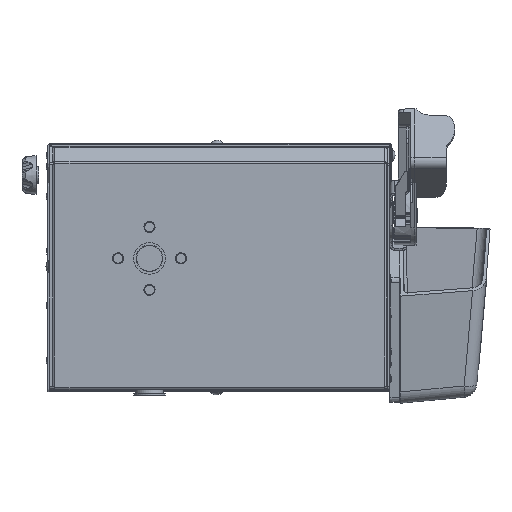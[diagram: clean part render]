
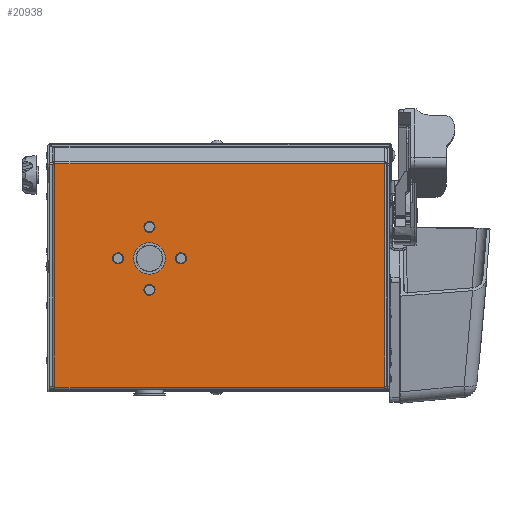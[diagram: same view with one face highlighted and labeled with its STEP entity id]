
A CAD part, front view. The second image highlights one B-rep face of the part: STEP entity #20938.
In plain terms, the highlighted planar face has unit normal (0, -1, 0).
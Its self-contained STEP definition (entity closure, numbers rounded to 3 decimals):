
#100=FACE_BOUND('',#6936,.T.);
#101=FACE_BOUND('',#6937,.T.);
#102=FACE_BOUND('',#6938,.T.);
#103=FACE_BOUND('',#6939,.T.);
#104=FACE_BOUND('',#6940,.T.);
#493=PLANE('',#22616);
#1459=CIRCLE('',#22191,0.632);
#1468=CIRCLE('',#22205,0.253);
#1484=CIRCLE('',#22243,0.253);
#1500=CIRCLE('',#22281,0.253);
#1516=CIRCLE('',#22319,0.253);
#2736=LINE('',#41921,#4077);
#2737=LINE('',#41987,#4078);
#2798=LINE('',#42563,#4139);
#2799=LINE('',#42564,#4140);
#4077=VECTOR('',#26490,0.394);
#4078=VECTOR('',#26493,0.394);
#4139=VECTOR('',#26678,0.394);
#4140=VECTOR('',#26679,0.394);
#5709=FACE_OUTER_BOUND('',#6935,.T.);
#6935=EDGE_LOOP('',(#17049,#17050,#17051,#17052));
#6936=EDGE_LOOP('',(#17053));
#6937=EDGE_LOOP('',(#17054));
#6938=EDGE_LOOP('',(#17055));
#6939=EDGE_LOOP('',(#17056));
#6940=EDGE_LOOP('',(#17057));
#8937=VERTEX_POINT('',#36479);
#8946=VERTEX_POINT('',#36506);
#8974=VERTEX_POINT('',#36628);
#9002=VERTEX_POINT('',#36750);
#9030=VERTEX_POINT('',#36872);
#9326=VERTEX_POINT('',#41912);
#9327=VERTEX_POINT('',#41920);
#9331=VERTEX_POINT('',#41978);
#9332=VERTEX_POINT('',#41986);
#11351=EDGE_CURVE('',#8937,#8937,#1459,.T.);
#11363=EDGE_CURVE('',#8946,#8946,#1468,.T.);
#11411=EDGE_CURVE('',#8974,#8974,#1484,.T.);
#11459=EDGE_CURVE('',#9002,#9002,#1500,.T.);
#11507=EDGE_CURVE('',#9030,#9030,#1516,.T.);
#11939=EDGE_CURVE('',#9327,#9326,#2736,.T.);
#11947=EDGE_CURVE('',#9331,#9332,#2737,.T.);
#12066=EDGE_CURVE('',#9326,#9332,#2798,.T.);
#12067=EDGE_CURVE('',#9331,#9327,#2799,.T.);
#17049=ORIENTED_EDGE('',*,*,#11939,.T.);
#17050=ORIENTED_EDGE('',*,*,#12066,.T.);
#17051=ORIENTED_EDGE('',*,*,#11947,.F.);
#17052=ORIENTED_EDGE('',*,*,#12067,.T.);
#17053=ORIENTED_EDGE('',*,*,#11351,.T.);
#17054=ORIENTED_EDGE('',*,*,#11363,.T.);
#17055=ORIENTED_EDGE('',*,*,#11411,.T.);
#17056=ORIENTED_EDGE('',*,*,#11459,.T.);
#17057=ORIENTED_EDGE('',*,*,#11507,.T.);
#20938=ADVANCED_FACE('',(#5709,#100,#101,#102,#103,#104),#493,.F.);
#22191=AXIS2_PLACEMENT_3D('',#36481,#25584,#25585);
#22205=AXIS2_PLACEMENT_3D('',#36507,#25615,#25616);
#22243=AXIS2_PLACEMENT_3D('',#36629,#25711,#25712);
#22281=AXIS2_PLACEMENT_3D('',#36751,#25807,#25808);
#22319=AXIS2_PLACEMENT_3D('',#36873,#25903,#25904);
#22616=AXIS2_PLACEMENT_3D('',#42562,#26676,#26677);
#25584=DIRECTION('center_axis',(0.,1.,0.));
#25585=DIRECTION('ref_axis',(-1.,0.,0.));
#25615=DIRECTION('center_axis',(0.,1.,0.));
#25616=DIRECTION('ref_axis',(0.472,0.,-0.882));
#25711=DIRECTION('center_axis',(0.,1.,0.));
#25712=DIRECTION('ref_axis',(0.039,0.,-0.999));
#25807=DIRECTION('center_axis',(0.,1.,0.));
#25808=DIRECTION('ref_axis',(0.664,0.,0.748));
#25903=DIRECTION('center_axis',(0.,1.,0.));
#25904=DIRECTION('ref_axis',(-0.393,0.,0.92));
#26490=DIRECTION('',(0.,0.,-1.));
#26493=DIRECTION('',(0.,0.,-1.));
#26676=DIRECTION('center_axis',(0.,1.,0.));
#26677=DIRECTION('ref_axis',(0.,0.,1.));
#26678=DIRECTION('',(1.,0.,0.));
#26679=DIRECTION('',(-1.,0.,0.));
#36479=CARTESIAN_POINT('',(0.616,-0.006,-0.006));
#36481=CARTESIAN_POINT('Origin',(-0.016,-0.006,
-0.006));
#36506=CARTESIAN_POINT('',(-0.135,-0.006,1.654));
#36507=CARTESIAN_POINT('Origin',(-0.016,-0.006,
1.432));
#36628=CARTESIAN_POINT('',(1.412,-0.006,0.246));
#36629=CARTESIAN_POINT('Origin',(1.422,-0.006,
-0.006));
#36750=CARTESIAN_POINT('',(-1.621,-0.006,-0.195));
#36751=CARTESIAN_POINT('Origin',(-1.453,-0.006,
-0.006));
#36872=CARTESIAN_POINT('',(0.083,-0.006,-1.676));
#36873=CARTESIAN_POINT('Origin',(-0.016,-0.006,
-1.443));
#41912=CARTESIAN_POINT('',(-4.33,-0.006,-5.88));
#41920=CARTESIAN_POINT('',(-4.33,-0.006,4.317));
#41921=CARTESIAN_POINT('',(-4.33,-0.006,1.75));
#41978=CARTESIAN_POINT('',(10.72,-0.006,4.317));
#41986=CARTESIAN_POINT('',(10.72,-0.006,-5.88));
#41987=CARTESIAN_POINT('',(10.72,-0.006,4.367));
#42562=CARTESIAN_POINT('Origin',(1.438,-0.006,0.));
#42563=CARTESIAN_POINT('',(-0.657,-0.006,-5.88));
#42564=CARTESIAN_POINT('',(6.928,-0.006,4.317));
